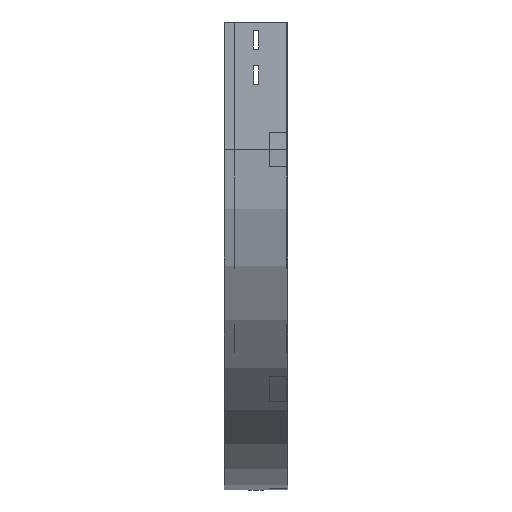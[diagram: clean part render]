
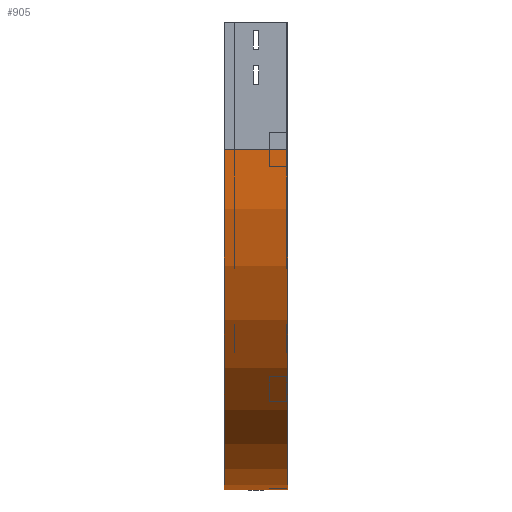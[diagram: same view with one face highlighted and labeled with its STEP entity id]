
A CAD part, left-side view. The second image highlights one B-rep face of the part: STEP entity #905.
In plain terms, the highlighted cylindrical face has radius 400 mm (diameter 800 mm), a partial arc.
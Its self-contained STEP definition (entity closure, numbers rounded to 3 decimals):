
#69 = EDGE_LOOP ( 'NONE', ( #891, #3580, #3635, #2591 ) ) ;
#149 = CARTESIAN_POINT ( 'NONE',  ( 400., 0., -550. ) ) ;
#423 = CIRCLE ( 'NONE', #1160, 400. ) ;
#460 = DIRECTION ( 'NONE',  ( 0., 0., -1. ) ) ;
#497 = DIRECTION ( 'NONE',  ( 0., -1., 0. ) ) ;
#548 = DIRECTION ( 'NONE',  ( -1., 0., 0. ) ) ;
#649 = VERTEX_POINT ( 'NONE', #1329 ) ;
#786 = FACE_OUTER_BOUND ( 'NONE', #69, .T. ) ;
#834 = CARTESIAN_POINT ( 'NONE',  ( 400., 0., -550. ) ) ;
#839 = DIRECTION ( 'NONE',  ( 0., -1., 0. ) ) ;
#891 = ORIENTED_EDGE ( 'NONE', *, *, #3385, .F. ) ;
#905 = ADVANCED_FACE ( 'NONE', ( #786 ), #2249, .T. ) ;
#931 = VERTEX_POINT ( 'NONE', #2837 ) ;
#993 = LINE ( 'NONE', #149, #1036 ) ;
#1032 = CIRCLE ( 'NONE', #2405, 400. ) ;
#1036 = VECTOR ( 'NONE', #2451, 1000. ) ;
#1160 = AXIS2_PLACEMENT_3D ( 'NONE', #2308, #3509, #2325 ) ;
#1329 = CARTESIAN_POINT ( 'NONE',  ( 400., 75., -550. ) ) ;
#1491 = EDGE_CURVE ( 'NONE', #931, #649, #1032, .T. ) ;
#1622 = CARTESIAN_POINT ( 'NONE',  ( 0., 0., -150. ) ) ;
#1777 = DIRECTION ( 'NONE',  ( 0., -1., 0. ) ) ;
#2032 = LINE ( 'NONE', #3836, #2040 ) ;
#2040 = VECTOR ( 'NONE', #1777, 1000. ) ;
#2120 = VERTEX_POINT ( 'NONE', #834 ) ;
#2249 = CYLINDRICAL_SURFACE ( 'NONE', #3657, 400. ) ;
#2308 = CARTESIAN_POINT ( 'NONE',  ( 400., 0., -150. ) ) ;
#2325 = DIRECTION ( 'NONE',  ( -1., 0., 0. ) ) ;
#2353 = EDGE_CURVE ( 'NONE', #649, #2120, #993, .T. ) ;
#2363 = VERTEX_POINT ( 'NONE', #1622 ) ;
#2405 = AXIS2_PLACEMENT_3D ( 'NONE', #3519, #839, #548 ) ;
#2451 = DIRECTION ( 'NONE',  ( 0., -1., 0. ) ) ;
#2591 = ORIENTED_EDGE ( 'NONE', *, *, #2353, .T. ) ;
#2837 = CARTESIAN_POINT ( 'NONE',  ( 0., 75., -150. ) ) ;
#2902 = EDGE_CURVE ( 'NONE', #931, #2363, #2032, .T. ) ;
#3385 = EDGE_CURVE ( 'NONE', #2363, #2120, #423, .T. ) ;
#3405 = CARTESIAN_POINT ( 'NONE',  ( 400., 0., -150. ) ) ;
#3509 = DIRECTION ( 'NONE',  ( 0., -1., 0. ) ) ;
#3519 = CARTESIAN_POINT ( 'NONE',  ( 400., 75., -150. ) ) ;
#3580 = ORIENTED_EDGE ( 'NONE', *, *, #2902, .F. ) ;
#3635 = ORIENTED_EDGE ( 'NONE', *, *, #1491, .T. ) ;
#3657 = AXIS2_PLACEMENT_3D ( 'NONE', #3405, #497, #460 ) ;
#3836 = CARTESIAN_POINT ( 'NONE',  ( 0., 0., -150. ) ) ;
